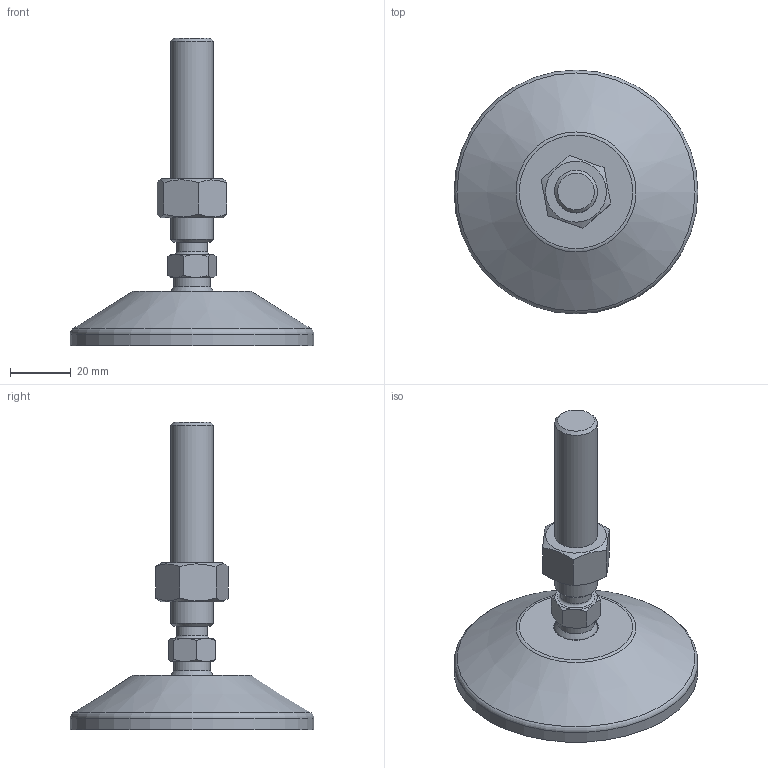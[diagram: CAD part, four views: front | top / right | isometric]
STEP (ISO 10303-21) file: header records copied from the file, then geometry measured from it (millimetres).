
FILE_DESCRIPTION(('STEP AP203'), '1');
FILE_NAME('栖闉罻', '', ('UNSPECIFIED'), ('UNSPECIFIED'), 'C3D Converter', 'C3D Toolkit', '');
FILE_SCHEMA(('CONFIG_CONTROL_DESIGN'));
Length unit declared in the file: millimetre
Products named in the file (4): A00020.114066; A00015.1080
Assembly tree (3 placements, depth 3):
  (unnamed)
    A00020.114066
      (unnamed)
    A00015.1080
Bounding box: 80 x 80 x 100.99 mm (x, y, z)
Volume: 52928.5 mm3; surface area: 22764.6 mm2
Topology: 3 solids, 3 shells, 191 faces, 476 edges, 313 vertices
Faces by surface type: plane 96, cylinder 58, cone 21, torus 14, sphere 2
Full cylindrical faces by diameter (mm): 4 x8, 10.2 x1, 11.835 x1, 12 x1, 14 x1, 14.3 x1, 15 x2, 15.5 x1, 69.3 x1, 80 x1
Entity records: 9645 total; most frequent: CARTESIAN_POINT 3455, DIRECTION 942, ORIENTED_EDGE 880, EDGE_CURVE 440, AXIS2_PLACEMENT_3D 377, VERTEX_POINT 312, EDGE_LOOP 250, FACE_BOUND 207
